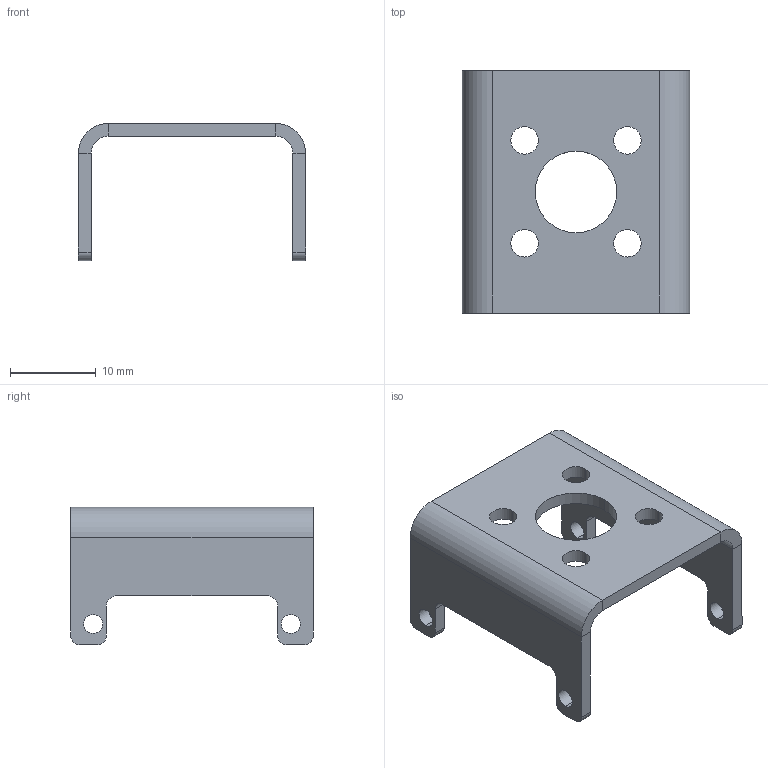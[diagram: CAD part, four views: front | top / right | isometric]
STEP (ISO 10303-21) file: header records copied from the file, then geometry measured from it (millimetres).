
FILE_DESCRIPTION (( 'STEP AP214' ), '1' );
FILE_NAME ('30x Bracket E.STEP', '2024-02-28T20:56:55', ( '' ), ( '' ), 'SwSTEP 2.0', 'SolidWorks 2023', '' );
FILE_SCHEMA (( 'AUTOMOTIVE_DESIGN' ));
Length unit declared in the file: millimetre
Products named in the file (1): 30x Bracket E
Bounding box: 26.5 x 28.25 x 16 mm (x, y, z)
Volume: 1731.8 mm3; surface area: 2725.7 mm2
Topology: 1 solids, 1 shells, 60 faces, 158 edges, 100 vertices
Faces by surface type: cylinder 34, plane 26
Entity records: 1921 total; most frequent: DIRECTION 348, CARTESIAN_POINT 319, ORIENTED_EDGE 316, EDGE_CURVE 158, AXIS2_PLACEMENT_3D 129, VERTEX_POINT 100, VECTOR 90, LINE 90
